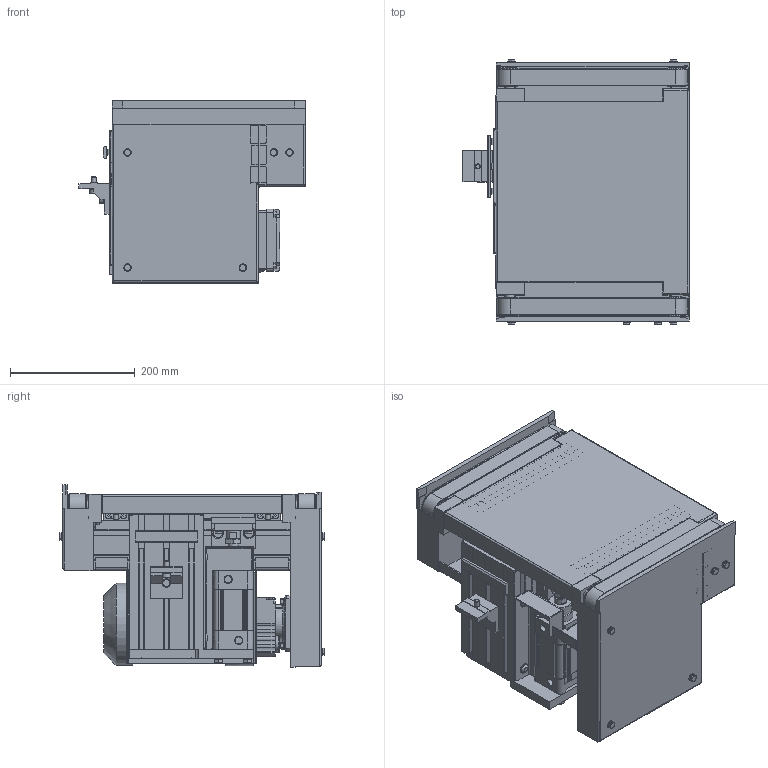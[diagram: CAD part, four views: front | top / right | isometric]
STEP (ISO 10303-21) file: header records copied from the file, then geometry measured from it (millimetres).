
FILE_DESCRIPTION(/* description */ (''),/* implementation_level */ '2;1');
FILE_NAME(/* name */ 'C:\Marketing\01_Versamove-SPU_STEP-Dateien-Homepage\Versamove plus\HQZ-400.stp',/* time_stamp */ '2017-02-03T10:24:26+01:00',/* author */ ('herbert.engels'),/* organization */ (''),/* preprocessor_version */ 'ST-DEVELOPER v15.6',/* originating_system */ 'Autodesk Inventor 2015',/* authorisation */ '');
FILE_SCHEMA (('CONFIG_CONTROL_DESIGN','AP203_CONFIGURATION_CONTROLLED_3D_DESIGN_OF_MECHANICAL_PARTS_AND_ASSEMBLIES_MIM_LF','AUTOMOTIVE_DESIGN','AP242_MANAGED_MODEL_BASED_3D_ENGINEERING_MIM_LF'));
Products named in the file (1): HQZ-400
Bounding box: 363.1 x 426.2 x 293 mm (x, y, z)
Volume: 9208153.9 mm3; surface area: 2125825.2 mm2
Topology: 4 solids, 4 shells, 3879 faces, 11105 edges, 7194 vertices
Faces by surface type: plane 2400, cylinder 946, cone 310, torus 140, sphere 50, bspline 33
Full cylindrical faces by diameter (mm): 4.5 x7, 5.459 x2, 6 x11, 6.6 x9, 7.323 x6, 8 x21, 8.7 x9, 9 x8, 11.4 x9, 11.445 x2, 12 x16, 12.9 x2, 13 x6, 13.2 x4, 13.5 x4, 14 x2, 15 x4, 15.24 x6, 15.3 x2, 15.8 x2, 16 x7, 16.2 x4, 17 x8, 20 x3, 21 x2, 22 x1, 22.76 x12, 24 x2, 25 x1, 28 x1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
Entity records: 131998 total; most frequent: CARTESIAN_POINT 29092, ORIENTED_EDGE 21014, DIRECTION 19919, EDGE_CURVE 10507, VERTEX_POINT 6978, LINE 6769, VECTOR 6769, AXIS2_PLACEMENT_3D 6575
